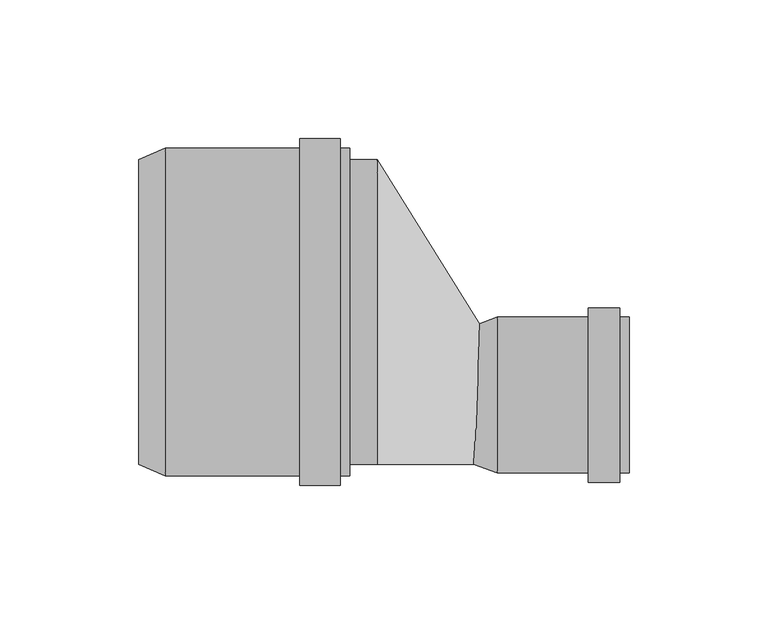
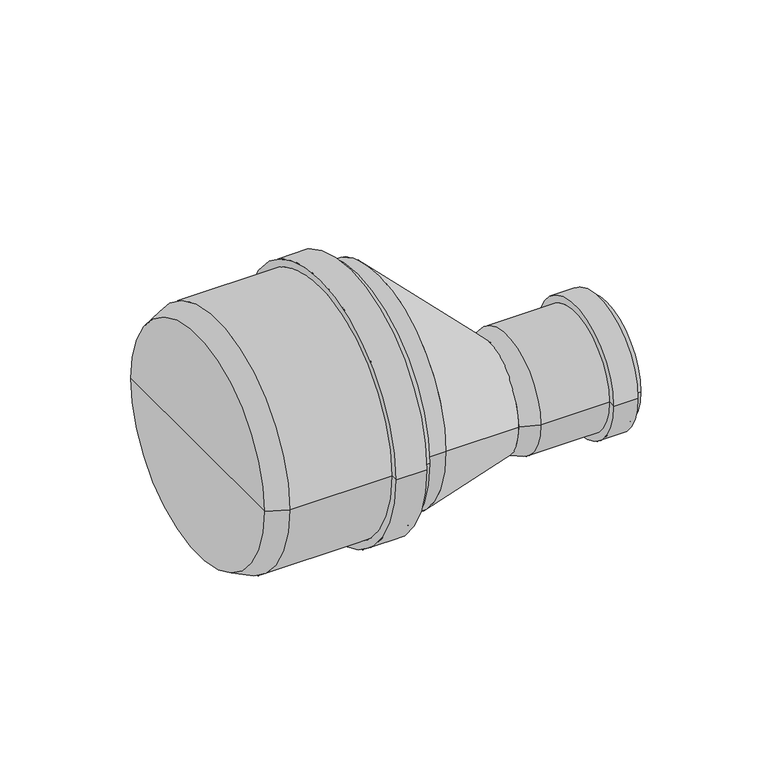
"""IFC4 building model written with IfcOpenShell, lengths in millimetres: pipe fitting geometry, pf_HTR_red-nes-dlouha : pf_HTR_red-nes-dlouha."""

from ifc_helpers import new_model, si_unit, point, frame, origin, origin_2d, place, context, project, spatial, polyline, circle_curve, trimmed, segment, composite_curve, outline, extrude, source, transform, mapped, element, save
from ifc_brep_helpers import plane_surface, cylinder_surface, revolved_surface, spline_surface, advanced_brep


def pipe_fitting_f10fd5be(model_context):
    return source(origin(), model_context, "Body", "SolidModel", [
        advanced_brep(
        [(-86.0, -55.0, 0.0), (-86.0, 55.0, 0.0), (-76.5, 59.1, 0.0), (-76.5, -59.1, 0.0), (-86.0, 0.0, 0.0), (-10.0, -59.1, 0.0), (-10.0, 59.1, 0.0), (-10.0, 0.0, 0.0), (-13.4, -59.1, 0.0), (-13.4, 59.1, 0.0), (-13.4, -62.5, 0.0), (-13.4, 62.5, 0.0), (-27.9, -62.5, 0.0), (-27.9, 62.5, 0.0), (-27.9, -59.1, 0.0), (-27.9, 59.1, 0.0)],
        [
            (0, 1, circle_curve(frame((-86.0, 0.0, 0.0), z_axis=(1.0, 0.0, 0.0), x_axis=(0.0, 1.0, 0.0)), 55.0)),
            (1, 2),
            (2, 3, circle_curve(frame((-76.5, 0.0, 0.0), z_axis=(-1.0, 0.0, 0.0), x_axis=(0.0, 1.0, 0.0)), 59.1)),
            (3, 0),
            (1, 0, circle_curve(frame((-86.0, 0.0, 0.0), z_axis=(1.0, 0.0, 0.0), x_axis=(0.0, 1.0, 0.0)), 55.0)),
            (3, 2, circle_curve(frame((-76.5, 0.0, 0.0), z_axis=(-1.0, 0.0, 0.0), x_axis=(0.0, 1.0, 0.0)), 59.1)),
            (4, 1),
            (0, 4),
            (5, 6, circle_curve(frame((-10.0, 0.0, 0.0), z_axis=(1.0, 0.0, 0.0), x_axis=(0.0, 1.0, 0.0)), 59.1)),
            (6, 7),
            (7, 5),
            (6, 5, circle_curve(frame((-10.0, 0.0, 0.0), z_axis=(1.0, 0.0, 0.0), x_axis=(0.0, 1.0, 0.0)), 59.1)),
            (8, 9, circle_curve(frame((-13.4, 0.0, 0.0), z_axis=(1.0, 0.0, 0.0), x_axis=(0.0, 1.0, 0.0)), 59.1)),
            (9, 6),
            (5, 8),
            (9, 8, circle_curve(frame((-13.4, 0.0, 0.0), z_axis=(1.0, 0.0, 0.0), x_axis=(0.0, 1.0, 0.0)), 59.1)),
            (10, 11, circle_curve(frame((-13.4, 0.0, 0.0), z_axis=(1.0, 0.0, 0.0), x_axis=(0.0, 1.0, 0.0)), 62.5)),
            (11, 9),
            (8, 10),
            (11, 10, circle_curve(frame((-13.4, 0.0, 0.0), z_axis=(1.0, 0.0, 0.0), x_axis=(0.0, 1.0, 0.0)), 62.5)),
            (12, 13, circle_curve(frame((-27.9, 0.0, 0.0), z_axis=(1.0, 0.0, 0.0), x_axis=(0.0, 1.0, 0.0)), 62.5)),
            (13, 11),
            (10, 12),
            (13, 12, circle_curve(frame((-27.9, 0.0, 0.0), z_axis=(1.0, 0.0, 0.0), x_axis=(0.0, 1.0, 0.0)), 62.5)),
            (14, 15, circle_curve(frame((-27.9, 0.0, 0.0), z_axis=(1.0, 0.0, 0.0), x_axis=(0.0, 1.0, 0.0)), 59.1)),
            (15, 13),
            (12, 14),
            (15, 14, circle_curve(frame((-27.9, 0.0, 0.0), z_axis=(1.0, 0.0, 0.0), x_axis=(0.0, 1.0, 0.0)), 59.1)),
            (2, 15),
            (14, 3),
        ],
        [
            revolved_surface(polyline([(-76.5, 59.1, 0.0), (-86.0, 55.0, 0.0)]), (-86.0, 0.0, 0.0), (-1.0, 0.0, 0.0)),
            plane_surface(frame((-86.0, 0.0, 0.0), z_axis=(-1.0, 0.0, 0.0), x_axis=(0.0, 1.0, 0.0))),
            plane_surface(frame((-10.0, 0.0, 0.0), z_axis=(1.0, 0.0, 0.0), x_axis=(0.0, 1.0, 0.0))),
            cylinder_surface(frame((-86.0, 0.0, 0.0), z_axis=(-1.0, 0.0, 0.0), x_axis=(0.0, 1.0, 0.0)), 59.1),
            plane_surface(frame((-13.4, 0.0, 0.0), z_axis=(1.0, 0.0, 0.0), x_axis=(0.0, 1.0, 0.0))),
            cylinder_surface(frame((-86.0, 0.0, 0.0), z_axis=(-1.0, 0.0, 0.0), x_axis=(0.0, 1.0, 0.0)), 62.5),
            plane_surface(frame((-27.9, 0.0, 0.0), z_axis=(-1.0, 0.0, 0.0), x_axis=(0.0, 1.0, 0.0))),
        ],
        [
            (0, [[1, 2, 3, 4]]),
            (0, [[5, -4, 6, -2]]),
            (1, [[7, -1, 8]]),
            (1, [[-8, -5, -7]]),
            (2, [[9, 10, 11]]),
            (2, [[12, -11, -10]]),
            (3, [[13, 14, -9, 15]]),
            (3, [[16, -15, -12, -14]]),
            (4, [[17, 18, -13, 19]]),
            (4, [[20, -19, -16, -18]]),
            (5, [[21, 22, -17, 23]]),
            (5, [[24, -23, -20, -22]]),
            (6, [[25, 26, -21, 27]]),
            (6, [[28, -27, -24, -26]]),
            (3, [[-3, 29, -25, 30]]),
            (3, [[-6, -30, -28, -29]]),
        ],
    ),
        advanced_brep(
        [(34.75, -55.0, 0.0), (34.75, -5.0, 0.0), (43.25, -1.9, 0.0), (43.25, -58.1, 0.0), (34.75, -30.0, 0.0), (90.75, -58.1, 0.0), (90.75, -1.9, 0.0), (90.75, -30.0, 0.0), (87.35, -58.1, 0.0), (87.35, -1.9, 0.0), (87.35, -61.5, 0.0), (87.35, 1.5, 0.0), (75.95, -61.5, 0.0), (75.95, 1.5, 0.0), (75.95, -58.1, 0.0), (75.95, -1.9, 0.0)],
        [
            (0, 1, circle_curve(frame((34.75, -30.0, 0.0), z_axis=(1.0, 0.0, 0.0), x_axis=(0.0, 1.0, 0.0)), 25.0)),
            (1, 2),
            (2, 3, circle_curve(frame((43.25, -30.0, 0.0), z_axis=(-1.0, 0.0, 0.0), x_axis=(0.0, 1.0, 0.0)), 28.1)),
            (3, 0),
            (1, 0, circle_curve(frame((34.75, -30.0, 0.0), z_axis=(1.0, 0.0, 0.0), x_axis=(0.0, 1.0, 0.0)), 25.0)),
            (3, 2, circle_curve(frame((43.25, -30.0, 0.0), z_axis=(-1.0, 0.0, 0.0), x_axis=(0.0, 1.0, 0.0)), 28.1)),
            (4, 1),
            (0, 4),
            (5, 6, circle_curve(frame((90.75, -30.0, 0.0), z_axis=(1.0, 0.0, 0.0), x_axis=(0.0, 1.0, 0.0)), 28.1)),
            (6, 7),
            (7, 5),
            (6, 5, circle_curve(frame((90.75, -30.0, 0.0), z_axis=(1.0, 0.0, 0.0), x_axis=(0.0, 1.0, 0.0)), 28.1)),
            (8, 9, circle_curve(frame((87.35, -30.0, 0.0), z_axis=(1.0, 0.0, 0.0), x_axis=(0.0, 1.0, 0.0)), 28.1)),
            (9, 6),
            (5, 8),
            (9, 8, circle_curve(frame((87.35, -30.0, 0.0), z_axis=(1.0, 0.0, 0.0), x_axis=(0.0, 1.0, 0.0)), 28.1)),
            (10, 11, circle_curve(frame((87.35, -30.0, 0.0), z_axis=(1.0, 0.0, 0.0), x_axis=(0.0, 1.0, 0.0)), 31.5)),
            (11, 9),
            (8, 10),
            (11, 10, circle_curve(frame((87.35, -30.0, 0.0), z_axis=(1.0, 0.0, 0.0), x_axis=(0.0, 1.0, 0.0)), 31.5)),
            (12, 13, circle_curve(frame((75.95, -30.0, 0.0), z_axis=(1.0, 0.0, 0.0), x_axis=(0.0, 1.0, 0.0)), 31.5)),
            (13, 11),
            (10, 12),
            (13, 12, circle_curve(frame((75.95, -30.0, 0.0), z_axis=(1.0, 0.0, 0.0), x_axis=(0.0, 1.0, 0.0)), 31.5)),
            (14, 15, circle_curve(frame((75.95, -30.0, 0.0), z_axis=(1.0, 0.0, 0.0), x_axis=(0.0, 1.0, 0.0)), 28.1)),
            (15, 13),
            (12, 14),
            (15, 14, circle_curve(frame((75.95, -30.0, 0.0), z_axis=(1.0, 0.0, 0.0), x_axis=(0.0, 1.0, 0.0)), 28.1)),
            (2, 15),
            (14, 3),
        ],
        [
            revolved_surface(polyline([(43.25, -1.9, 0.0), (34.75, -5.0, 0.0)]), (34.75, -30.0, 0.0), (-1.0, 0.0, 0.0)),
            plane_surface(frame((34.75, -30.0, 0.0), z_axis=(-1.0, 0.0, 0.0), x_axis=(0.0, 1.0, 0.0))),
            plane_surface(frame((90.75, -30.0, 0.0), z_axis=(1.0, 0.0, 0.0), x_axis=(0.0, 1.0, 0.0))),
            cylinder_surface(frame((34.75, -30.0, 0.0), z_axis=(-1.0, 0.0, 0.0), x_axis=(0.0, 1.0, 0.0)), 28.1),
            plane_surface(frame((87.35, -30.0, 0.0), z_axis=(1.0, 0.0, 0.0), x_axis=(0.0, 1.0, 0.0))),
            cylinder_surface(frame((34.75, -30.0, 0.0), z_axis=(-1.0, 0.0, 0.0), x_axis=(0.0, 1.0, 0.0)), 31.5),
            plane_surface(frame((75.95, -30.0, 0.0), z_axis=(-1.0, 0.0, 0.0), x_axis=(0.0, 1.0, 0.0))),
        ],
        [
            (0, [[1, 2, 3, 4]]),
            (0, [[5, -4, 6, -2]]),
            (1, [[7, -1, 8]]),
            (1, [[-8, -5, -7]]),
            (2, [[9, 10, 11]]),
            (2, [[12, -11, -10]]),
            (3, [[13, 14, -9, 15]]),
            (3, [[16, -15, -12, -14]]),
            (4, [[17, 18, -13, 19]]),
            (4, [[20, -19, -16, -18]]),
            (5, [[21, 22, -17, 23]]),
            (5, [[24, -23, -20, -22]]),
            (6, [[25, 26, -21, 27]]),
            (6, [[28, -27, -24, -26]]),
            (3, [[-3, 29, -25, 30]]),
            (3, [[-6, -30, -28, -29]]),
        ],
    ),
        extrude(outline(composite_curve([segment(trimmed(circle_curve(origin_2d(), 55.0), [point((-55.0, 0.0))], [point((55.0, 0.0))], False, "CARTESIAN"), True, "CONTINUOUS"), segment(trimmed(circle_curve(origin_2d(), 55.0), [point((55.0, 0.0))], [point((-55.0, 0.0))], False, "CARTESIAN"), True, "CONTINUOUS")], self_intersect=False)), frame((-10.0, 0.0, 0.0), z_axis=(1.0, 0.0, 0.0), x_axis=(0.0, 1.0, 0.0)), (0.0, 0.0, 1.0), 10.0),
        advanced_brep(
        [(37.25, -55.0, 0.0), (37.25, -5.0, 0.0), (0.0, -55.0, 0.0), (0.0, 55.0, 0.0)],
        [
            (0, 1, circle_curve(frame((37.25, -30.0, 0.0), z_axis=(1.0, 0.0, 0.0), x_axis=(0.0, 1.0, 0.0)), 25.0)),
            (1, 0, circle_curve(frame((37.25, -30.0, 0.0), z_axis=(1.0, 0.0, 0.0), x_axis=(0.0, 1.0, 0.0)), 25.0)),
            (2, 3, circle_curve(frame((0.0, 0.0, 0.0), z_axis=(-1.0, 0.0, 0.0), x_axis=(0.0, 1.0, 0.0)), 55.0)),
            (3, 2, circle_curve(frame((0.0, 0.0, 0.0), z_axis=(-1.0, 0.0, 0.0), x_axis=(0.0, 1.0, 0.0)), 55.0)),
            (3, 1),
            (0, 2),
        ],
        [
            plane_surface(frame((37.25, -30.0, 0.0), z_axis=(1.0, 0.0, 0.0), x_axis=(0.0, 0.0, -1.0))),
            plane_surface(frame((0.0, 0.0, 0.0), z_axis=(-1.0, 0.0, 0.0), x_axis=(0.0, 0.0, -1.0))),
            spline_surface(2, 1, [[(0.0, -55.0, 0.0), (37.25, -55.0, 0.0)], [(0.0, -55.0, -55.0), (37.25, -55.0, -25.0)], [(0.0, 0.0, -55.0), (37.25, -30.0, -25.0)], [(0.0, 55.0, -55.0), (37.25, -5.0, -25.0)], [(0.0, 55.0, 0.0), (37.25, -5.0, 0.0)]], [3, 2, 3], [2, 2], [0.0, 1.0, 2.0], [0.0, 1.0], weights=[[1.0, 1.0], [0.7071067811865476, 0.7071067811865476], [1.0, 1.0], [0.7071067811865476, 0.7071067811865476], [1.0, 1.0]]),
            spline_surface(2, 1, [[(0.0, 55.0, 0.0), (37.25, -5.0, 0.0)], [(0.0, 55.0, 55.0), (37.25, -5.0, 25.0)], [(0.0, 0.0, 55.0), (37.25, -30.0, 25.0)], [(0.0, -55.0, 55.0), (37.25, -55.0, 25.0)], [(0.0, -55.0, 0.0), (37.25, -55.0, 0.0)]], [3, 2, 3], [2, 2], [0.0, 1.0, 2.0], [0.0, 1.0], weights=[[1.0, 1.0], [0.7071067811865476, 0.7071067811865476], [1.0, 1.0], [0.7071067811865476, 0.7071067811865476], [1.0, 1.0]]),
        ],
        [
            (0, [[1, 2]]),
            (1, [[3, 4]]),
            (2, [[-4, 5, -1, 6]]),
            (3, [[-3, -6, -2, -5]]),
        ],
    ),
    ])


if __name__ == "__main__":
    model = new_model("IFC4")
    model_context = context("Model", 3, world=origin())
    ifc_project = project(units=[si_unit("LENGTHUNIT", "METRE", prefix="MILLI")], contexts=[model_context])
    site = spatial("IfcSite", under=ifc_project)
    building = spatial("IfcBuilding", under=site)
    placement = place(None, origin())
    pipe_fitting_shape = pipe_fitting_f10fd5be(model_context)
    element("IfcPipeFitting", 1, ObjectType="pf_HTR_red-nes-dlouha : pf_HTR_red-nes-dlouha", at=placement, inside=building, context=model_context, shape_type="MappedRepresentation", body=[
        mapped(pipe_fitting_shape, transform((0.0, 0.0, 0.0), x_axis=(1.0, 0.0, 0.0), y_axis=(0.0, 1.0, 0.0), z_axis=(0.0, 0.0, 1.0))),
    ])
    save(model, "model.ifc")
